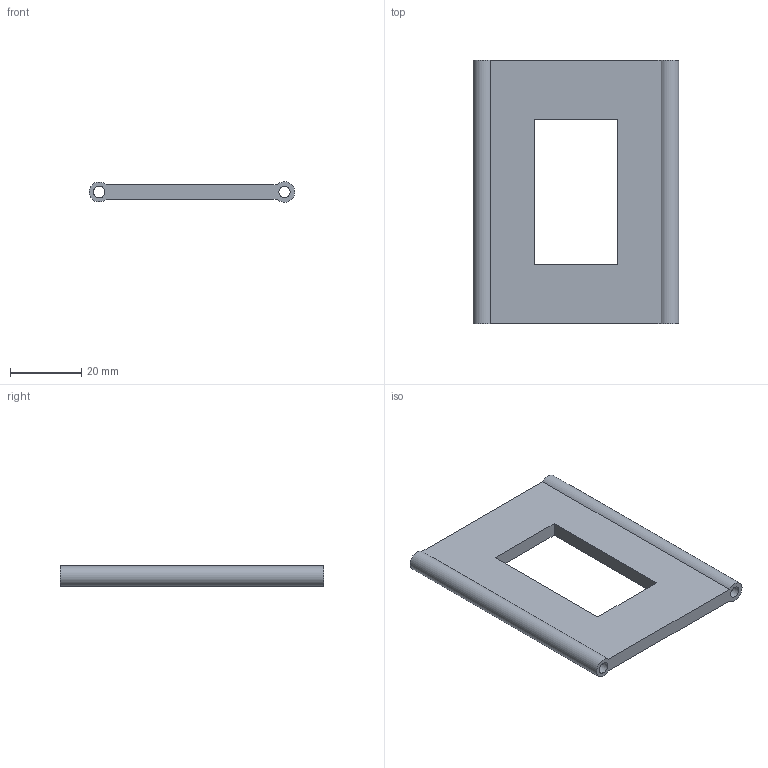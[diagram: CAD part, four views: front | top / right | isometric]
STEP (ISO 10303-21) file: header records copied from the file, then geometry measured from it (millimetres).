
FILE_DESCRIPTION(('Open CASCADE Model'),'2;1');
FILE_NAME('Open CASCADE Shape Model','2026-10-07T17:16:53',('Author'),( 'Open CASCADE'),'Open CASCADE STEP processor 8.0','build123d', 'Unknown');
FILE_SCHEMA(('AUTOMOTIVE_DESIGN { 1 0 10303 214 1 1 1 1 }'));
Length unit declared in the file: millimetre
Products named in the file (1): COMPOUND
Bounding box: 57.69 x 74 x 5.8 mm (x, y, z)
Volume: 12596.2 mm3; surface area: 9651.6 mm2
Topology: 1 solids, 1 shells, 12 faces, 30 edges, 20 vertices
Faces by surface type: plane 8, cylinder 4
Full cylindrical faces by diameter (mm): 3.2 x1, 3.3 x1
Entity records: 765 total; most frequent: CARTESIAN_POINT 177, DIRECTION 95, ORIENTED_EDGE 60, PCURVE 60, DEFINITIONAL_REPRESENTATION 60, LINE 50, VECTOR 50, EDGE_CURVE 30
